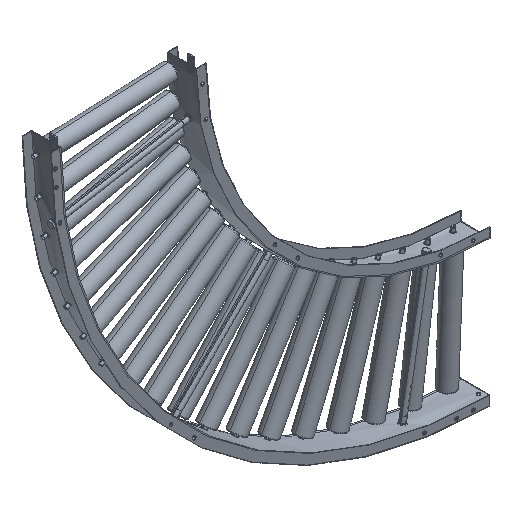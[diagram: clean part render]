
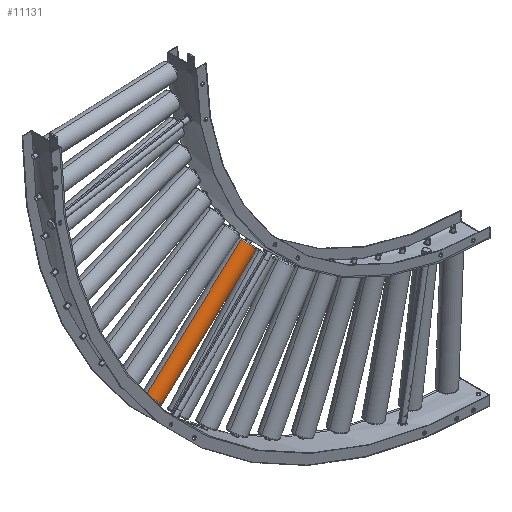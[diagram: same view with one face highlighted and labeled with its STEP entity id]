
A CAD part, isometric view. The second image highlights one B-rep face of the part: STEP entity #11131.
In plain terms, the highlighted cylindrical face has radius 25.4 mm (diameter 50.8 mm), a partial arc.
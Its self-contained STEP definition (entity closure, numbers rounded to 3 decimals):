
#12 = CARTESIAN_POINT ( 'NONE',  ( -46.401, 50.199, -165.125 ) ) ;
#793 = EDGE_CURVE ( 'NONE', #11032, #19332, #28444, .T. ) ;
#864 = CIRCLE ( 'NONE', #3817, 25.4 ) ;
#1686 = CARTESIAN_POINT ( 'NONE',  ( -336.888, 50.199, -431.307 ) ) ;
#2256 = EDGE_CURVE ( 'NONE', #23294, #18607, #5287, .T. ) ;
#2516 = DIRECTION ( 'NONE',  ( 0.676, 0., -0.737 ) ) ;
#2588 = CIRCLE ( 'NONE', #13941, 25.4 ) ;
#2768 = CARTESIAN_POINT ( 'NONE',  ( 194.885, 50.199, 90.424 ) ) ;
#3452 = CARTESIAN_POINT ( 'NONE',  ( -63.561, 50.199, -146.398 ) ) ;
#3817 = AXIS2_PLACEMENT_3D ( 'NONE', #1686, #25048, #27374 ) ;
#5278 = DIRECTION ( 'NONE',  ( 0.737, 0., 0.676 ) ) ;
#5287 = LINE ( 'NONE', #21385, #25232 ) ;
#9832 = ORIENTED_EDGE ( 'NONE', *, *, #25429, .T. ) ;
#9847 = VECTOR ( 'NONE', #14502, 1000. ) ;
#10414 = ORIENTED_EDGE ( 'NONE', *, *, #793, .F. ) ;
#11032 = VERTEX_POINT ( 'NONE', #25419 ) ;
#11131 = ADVANCED_FACE ( 'NONE', ( #17167 ), #28652, .T. ) ;
#11765 = ORIENTED_EDGE ( 'NONE', *, *, #24421, .T. ) ;
#12070 = DIRECTION ( 'NONE',  ( -0.676, 0., 0.737 ) ) ;
#13182 = AXIS2_PLACEMENT_3D ( 'NONE', #26024, #5278, #2516 ) ;
#13941 = AXIS2_PLACEMENT_3D ( 'NONE', #12, #26163, #12070 ) ;
#14502 = DIRECTION ( 'NONE',  ( 0.737, 0., 0.676 ) ) ;
#17167 = FACE_OUTER_BOUND ( 'NONE', #22368, .T. ) ;
#18607 = VERTEX_POINT ( 'NONE', #29657 ) ;
#19332 = VERTEX_POINT ( 'NONE', #3452 ) ;
#19383 = ORIENTED_EDGE ( 'NONE', *, *, #2256, .T. ) ;
#21385 = CARTESIAN_POINT ( 'NONE',  ( 229.205, 50.199, 52.97 ) ) ;
#22368 = EDGE_LOOP ( 'NONE', ( #10414, #9832, #19383, #11765 ) ) ;
#23294 = VERTEX_POINT ( 'NONE', #28013 ) ;
#24167 = DIRECTION ( 'NONE',  ( 0.737, 0., 0.676 ) ) ;
#24421 = EDGE_CURVE ( 'NONE', #18607, #19332, #2588, .T. ) ;
#25048 = DIRECTION ( 'NONE',  ( 0.737, 0., 0.676 ) ) ;
#25232 = VECTOR ( 'NONE', #24167, 1000. ) ;
#25419 = CARTESIAN_POINT ( 'NONE',  ( -354.048, 50.199, -412.581 ) ) ;
#25429 = EDGE_CURVE ( 'NONE', #11032, #23294, #864, .T. ) ;
#26024 = CARTESIAN_POINT ( 'NONE',  ( 212.045, 50.199, 71.697 ) ) ;
#26163 = DIRECTION ( 'NONE',  ( -0.737, 0., -0.676 ) ) ;
#27374 = DIRECTION ( 'NONE',  ( 0.676, 0., -0.737 ) ) ;
#28013 = CARTESIAN_POINT ( 'NONE',  ( -319.728, 50.199, -450.034 ) ) ;
#28444 = LINE ( 'NONE', #2768, #9847 ) ;
#28652 = CYLINDRICAL_SURFACE ( 'NONE', #13182, 25.4 ) ;
#29657 = CARTESIAN_POINT ( 'NONE',  ( -29.241, 50.199, -183.852 ) ) ;
